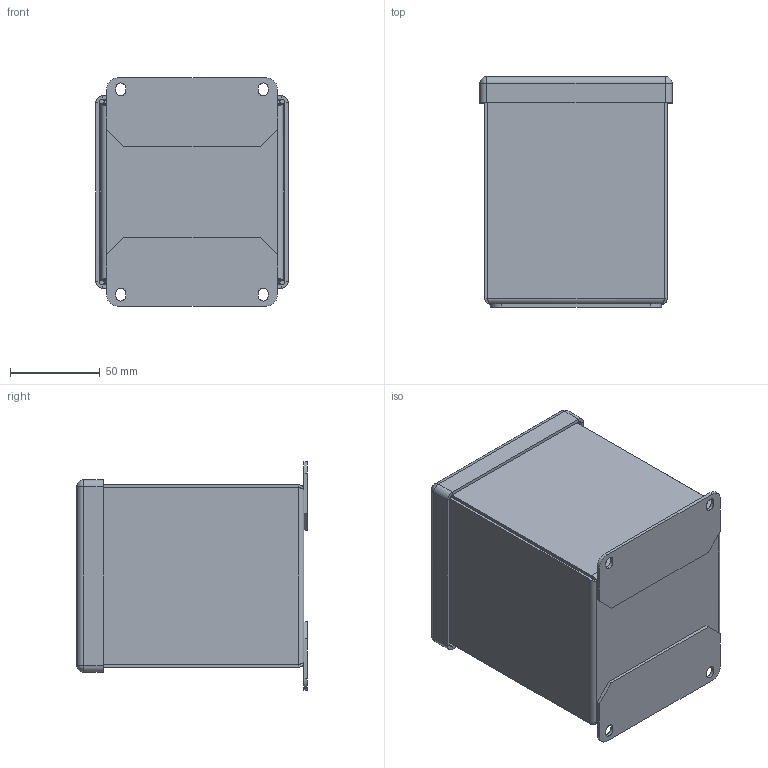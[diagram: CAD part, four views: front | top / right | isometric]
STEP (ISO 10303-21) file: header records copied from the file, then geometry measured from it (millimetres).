
FILE_DESCRIPTION (( 'STEP AP203' ), '1' );
FILE_NAME ('e1pbx4.STEP', '2015-07-15T16:01:18', ( '' ), ( '' ), 'SwSTEP 2.0', 'SolidWorks 2010', '' );
FILE_SCHEMA (( 'CONFIG_CONTROL_DESIGN' ));
Length unit declared in the file: inch
Products named in the file (7): 87540268; 89121527; e1pbx4; 58344002; 11258778; 89094593; 89121607
Assembly tree (7 placements, depth 3):
  e1pbx4
    89094593
      11258778  x2
      58344002
    89121607
      87540268
      89121527
Bounding box: 107.14 x 128.37 x 127 mm (x, y, z)
Volume: 140830.1 mm3; surface area: 177723.8 mm2
Topology: 5 solids, 5 shells, 360 faces, 929 edges, 588 vertices
Faces by surface type: plane 210, bspline 74, cylinder 68, torus 8
Entity records: 10956 total; most frequent: CARTESIAN_POINT 3437, ORIENTED_EDGE 1450, DIRECTION 1275, EDGE_CURVE 725, LINE 527, VECTOR 527, VERTEX_POINT 452, AXIS2_PLACEMENT_3D 374
